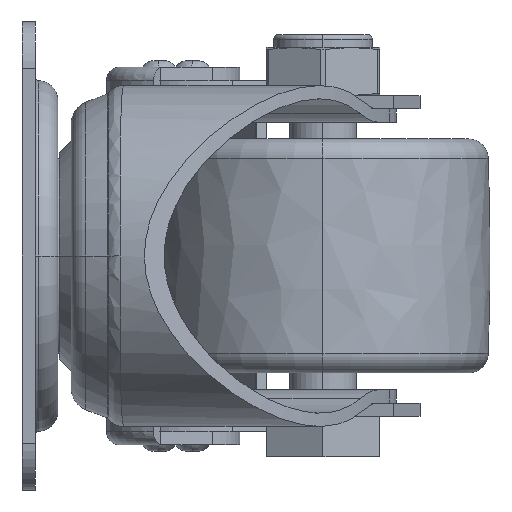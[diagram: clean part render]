
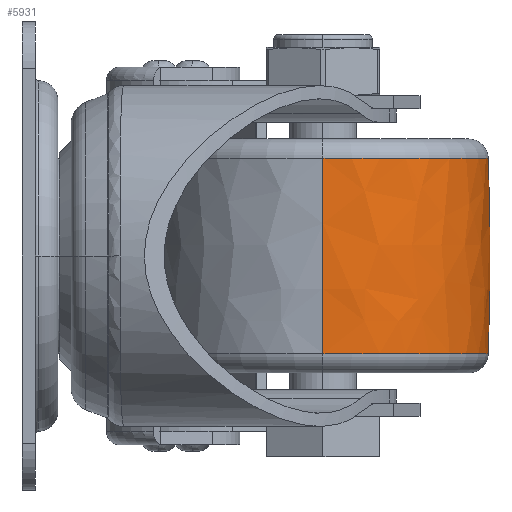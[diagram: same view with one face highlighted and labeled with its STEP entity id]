
A CAD part, left-side view. The second image highlights one B-rep face of the part: STEP entity #5931.
In plain terms, the highlighted free-form (B-spline) face has degree [3, 3] with [7, 4] control points.
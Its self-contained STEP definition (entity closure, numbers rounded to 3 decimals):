
#5669=CARTESIAN_POINT('',(-14.61,0.,0.));
#5670=DIRECTION('',(-1.,0.,0.));
#5671=DIRECTION('',(0.,1.,0.));
#5672=AXIS2_PLACEMENT_3D('',#5669,#5670,#5671);
#5732=CARTESIAN_POINT('',(0.,-375.25,
0.));
#5733=DIRECTION('',(0.,0.,1.));
#5734=DIRECTION('',(0.037,0.999,0.));
#5735=AXIS2_PLACEMENT_3D('',#5732,#5733,#5734);
#5737=CARTESIAN_POINT('',(0.,375.25,
0.));
#5738=DIRECTION('',(0.,0.,-1.));
#5739=DIRECTION('',(0.037,-0.999,0.));
#5740=AXIS2_PLACEMENT_3D('',#5737,#5738,#5739);
#5742=CARTESIAN_POINT('',(14.61,0.,0.));
#5743=DIRECTION('',(-1.,0.,0.));
#5744=DIRECTION('',(0.,1.,0.));
#5745=AXIS2_PLACEMENT_3D('',#5742,#5743,#5744);
#5752=CARTESIAN_POINT('',(-14.61,24.733,0.));
#5754=VERTEX_POINT('',#5752);
#5757=CARTESIAN_POINT('',(14.61,24.733,0.));
#5759=VERTEX_POINT('',#5757);
#5760=CARTESIAN_POINT('',(-14.61,-24.733,0.));
#5762=VERTEX_POINT('',#5760);
#5765=CARTESIAN_POINT('',(14.61,-24.733,0.));
#5767=VERTEX_POINT('',#5765);
#5894=CARTESIAN_POINT('',(-15.194,-24.663,
1.552));
#5895=CARTESIAN_POINT('',(-5.067,-25.047,
1.576));
#5896=CARTESIAN_POINT('',(5.067,-25.047,1.576));
#5897=CARTESIAN_POINT('',(15.194,-24.663,1.552));
#5898=CARTESIAN_POINT('',(-15.194,-25.618,
-13.626));
#5899=CARTESIAN_POINT('',(-5.067,-26.016,
-13.838));
#5900=CARTESIAN_POINT('',(5.067,-26.016,
-13.838));
#5901=CARTESIAN_POINT('',(15.194,-25.618,
-13.626));
#5902=CARTESIAN_POINT('',(-15.194,-15.207,
-24.712));
#5903=CARTESIAN_POINT('',(-5.067,-15.444,
-25.096));
#5904=CARTESIAN_POINT('',(5.067,-15.444,
-25.096));
#5905=CARTESIAN_POINT('',(15.194,-15.207,
-24.712));
#5906=CARTESIAN_POINT('',(-15.194,0.,-24.712));
#5907=CARTESIAN_POINT('',(-5.067,0.,-25.096));
#5908=CARTESIAN_POINT('',(5.067,0.,-25.096));
#5909=CARTESIAN_POINT('',(15.194,0.,-24.712));
#5910=CARTESIAN_POINT('',(-15.194,15.207,
-24.712));
#5911=CARTESIAN_POINT('',(-5.067,15.444,
-25.096));
#5912=CARTESIAN_POINT('',(5.067,15.444,-25.096));
#5913=CARTESIAN_POINT('',(15.194,15.207,-24.712));
#5914=CARTESIAN_POINT('',(-15.194,25.618,
-13.626));
#5915=CARTESIAN_POINT('',(-5.067,26.016,
-13.838));
#5916=CARTESIAN_POINT('',(5.067,26.016,-13.838));
#5917=CARTESIAN_POINT('',(15.194,25.618,-13.626));
#5918=CARTESIAN_POINT('',(-15.194,24.663,1.552));
#5919=CARTESIAN_POINT('',(-5.067,25.047,1.576));
#5920=CARTESIAN_POINT('',(5.067,25.047,1.576));
#5921=CARTESIAN_POINT('',(15.194,24.663,1.552));
#5922=(BOUNDED_SURFACE()B_SPLINE_SURFACE(3,3,((#5894,#5895,#5896,#5897),(#5898,
#5899,#5900,#5901),(#5902,#5903,#5904,#5905),(#5906,#5907,#5908,#5909),(#5910,
#5911,#5912,#5913),(#5914,#5915,#5916,#5917),(#5918,#5919,#5920,#5921)),
.UNSPECIFIED.,.F.,.F.,.F.)B_SPLINE_SURFACE_WITH_KNOTS((4,3,4),(4,4),(0.,1.,
2.),(0.,1.),.UNSPECIFIED.)GEOMETRIC_REPRESENTATION_ITEM()RATIONAL_B_SPLINE_SURFACE(((1.188,1.187,1.187,1.188),(
0.938,0.937,0.937,0.938),(
0.938,0.937,0.937,0.938),(
1.188,1.187,1.187,1.188),(
0.938,0.937,0.937,0.938),(
0.938,0.937,0.937,0.938),(
1.188,1.187,1.187,1.188)))REPRESENTATION_ITEM('')SURFACE());
#5924=ORIENTED_EDGE('',*,*,#5923,.T.);
#5925=ORIENTED_EDGE('',*,*,#5801,.T.);
#5927=ORIENTED_EDGE('',*,*,#5926,.F.);
#5928=ORIENTED_EDGE('',*,*,#5887,.F.);
#5929=EDGE_LOOP('',(#5924,#5925,#5927,#5928));
#5930=FACE_OUTER_BOUND('',#5929,.F.);
#5673=CIRCLE('',#5672,24.733);
#5736=CIRCLE('',#5735,400.25);
#5741=CIRCLE('',#5740,400.25);
#5746=CIRCLE('',#5745,24.733);
#5801=EDGE_CURVE('',#5754,#5762,#5673,.T.);
#5887=EDGE_CURVE('',#5759,#5767,#5746,.T.);
#5923=EDGE_CURVE('',#5759,#5754,#5736,.T.);
#5926=EDGE_CURVE('',#5767,#5762,#5741,.T.);
#5931=ADVANCED_FACE('',(#5930),#5922,.T.);
